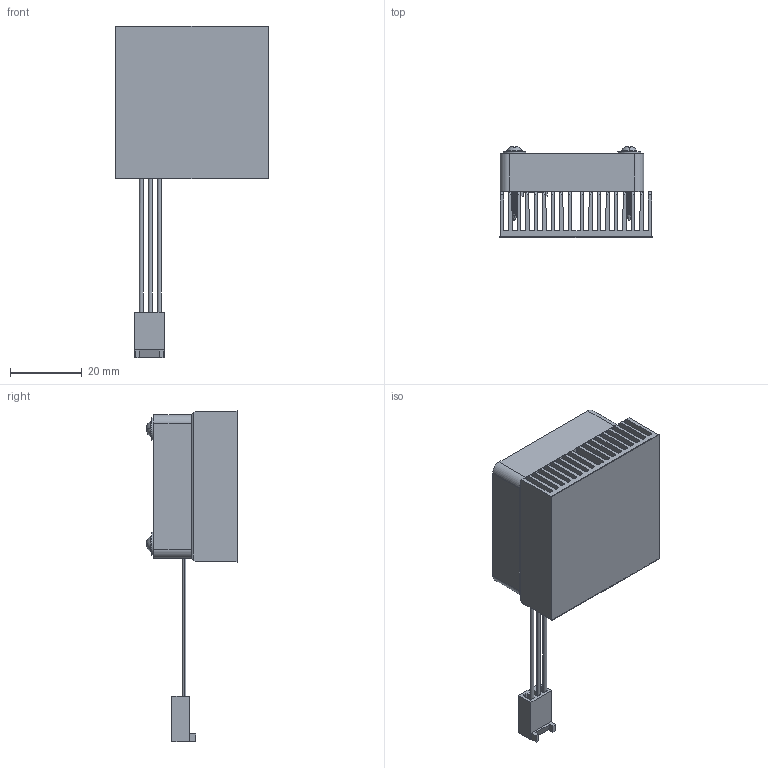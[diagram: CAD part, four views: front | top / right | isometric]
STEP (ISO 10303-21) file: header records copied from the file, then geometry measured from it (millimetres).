
FILE_DESCRIPTION (( 'STEP AP214' ), '1' );
FILE_NAME ('FJ42.5-1.7.STEP', '2023-03-08T17:50:46', ( '' ), ( '' ), 'SwSTEP 2.0', 'SolidWorks 2020', '' );
FILE_SCHEMA (( 'AUTOMOTIVE_DESIGN' ));
Length unit declared in the file: millimetre
Products named in the file (1): FJ42.5-1.7
Bounding box: 42.42 x 25.33 x 92.33 mm (x, y, z)
Volume: 19107.9 mm3; surface area: 33083.9 mm2
Topology: 11 solids, 11 shells, 995 faces, 2895 edges, 1924 vertices
Faces by surface type: cylinder 448, plane 301, bspline 194, cone 36, sphere 8, torus 8
Entity records: 54814 total; most frequent: CARTESIAN_POINT 21243, ORIENTED_EDGE 5790, DIRECTION 3659, EDGE_CURVE 2895, VERTEX_POINT 1924, VECTOR 1331, LINE 1331, AXIS2_PLACEMENT_3D 1164
